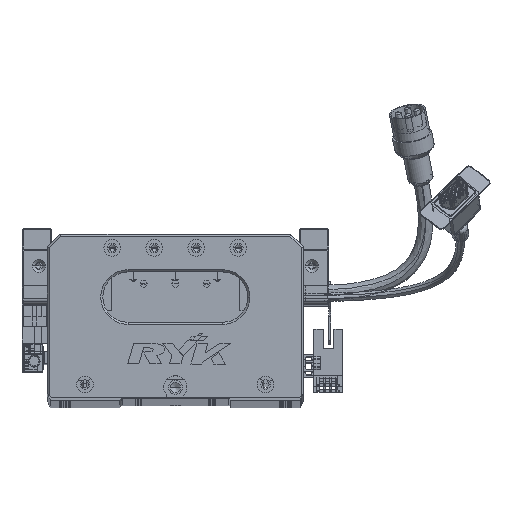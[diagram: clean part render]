
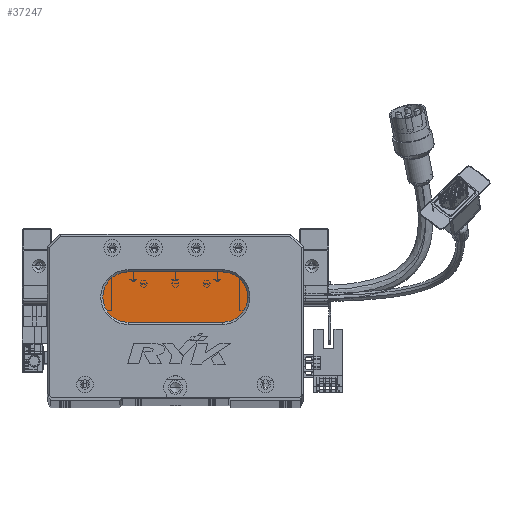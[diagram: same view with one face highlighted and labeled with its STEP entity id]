
A CAD part, top view. The second image highlights one B-rep face of the part: STEP entity #37247.
In plain terms, the highlighted planar face has unit normal (0, 0, 1) as drawn and (0, 0, -1) by its records, which use the part's own axes.
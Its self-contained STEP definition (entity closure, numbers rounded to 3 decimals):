
#1349 = VERTEX_POINT ( 'NONE', #45341 ) ;
#2501 = CARTESIAN_POINT ( 'NONE',  ( 83.5, 36., 13. ) ) ;
#7126 = CIRCLE ( 'NONE', #79330, 12. ) ;
#9318 = VERTEX_POINT ( 'NONE', #86271 ) ;
#11579 = EDGE_CURVE ( 'NONE', #53996, #93677, #7126, .T. ) ;
#16298 = LINE ( 'NONE', #2501, #43527 ) ;
#18006 = AXIS2_PLACEMENT_3D ( 'NONE', #30186, #82677, #83419 ) ;
#19084 = EDGE_CURVE ( 'NONE', #93677, #81019, #97982, .T. ) ;
#21597 = DIRECTION ( 'NONE',  ( 0., 0., -1. ) ) ;
#22746 = CARTESIAN_POINT ( 'NONE',  ( 38.5, 36., 13. ) ) ;
#26226 = DIRECTION ( 'NONE',  ( 0., 0., -1. ) ) ;
#30186 = CARTESIAN_POINT ( 'NONE',  ( 83.5, 48., 13. ) ) ;
#31749 = VECTOR ( 'NONE', #72324, 1000. ) ;
#35780 = ORIENTED_EDGE ( 'NONE', *, *, #42931, .T. ) ;
#37247 = ADVANCED_FACE ( 'NONE', ( #99446 ), #57127, .T. ) ;
#37480 = CARTESIAN_POINT ( 'NONE',  ( 38.5, 60., 13. ) ) ;
#41131 = AXIS2_PLACEMENT_3D ( 'NONE', #55436, #21597, #82500 ) ;
#42931 = EDGE_CURVE ( 'NONE', #9318, #53996, #16298, .T. ) ;
#43527 = VECTOR ( 'NONE', #80951, 1000. ) ;
#45341 = CARTESIAN_POINT ( 'NONE',  ( 83.5, 60., 13. ) ) ;
#46093 = CARTESIAN_POINT ( 'NONE',  ( 83.5, 60., 13. ) ) ;
#48090 = ORIENTED_EDGE ( 'NONE', *, *, #19084, .T. ) ;
#49022 = ORIENTED_EDGE ( 'NONE', *, *, #76804, .T. ) ;
#53996 = VERTEX_POINT ( 'NONE', #22746 ) ;
#55375 = DIRECTION ( 'NONE',  ( -1., 0., 0. ) ) ;
#55436 = CARTESIAN_POINT ( 'NONE',  ( 38.5, 48., 13. ) ) ;
#57127 = PLANE ( 'NONE',  #18006 ) ;
#59735 = AXIS2_PLACEMENT_3D ( 'NONE', #94391, #26226, #86748 ) ;
#60290 = LINE ( 'NONE', #46093, #31749 ) ;
#71538 = EDGE_CURVE ( 'NONE', #81019, #1349, #60290, .T. ) ;
#72324 = DIRECTION ( 'NONE',  ( 1., 0., 0. ) ) ;
#76804 = EDGE_CURVE ( 'NONE', #1349, #9318, #106695, .T. ) ;
#79330 = AXIS2_PLACEMENT_3D ( 'NONE', #82059, #98840, #55375 ) ;
#80951 = DIRECTION ( 'NONE',  ( -1., 0., 0. ) ) ;
#81019 = VERTEX_POINT ( 'NONE', #37480 ) ;
#82059 = CARTESIAN_POINT ( 'NONE',  ( 38.5, 48., 13. ) ) ;
#82500 = DIRECTION ( 'NONE',  ( -1., 0., 0. ) ) ;
#82677 = DIRECTION ( 'NONE',  ( 0., 0., -1. ) ) ;
#83419 = DIRECTION ( 'NONE',  ( -1., 0., 0. ) ) ;
#86271 = CARTESIAN_POINT ( 'NONE',  ( 83.5, 36., 13. ) ) ;
#86605 = ORIENTED_EDGE ( 'NONE', *, *, #11579, .T. ) ;
#86748 = DIRECTION ( 'NONE',  ( -1., 0., 0. ) ) ;
#87330 = ORIENTED_EDGE ( 'NONE', *, *, #71538, .T. ) ;
#93677 = VERTEX_POINT ( 'NONE', #95341 ) ;
#94391 = CARTESIAN_POINT ( 'NONE',  ( 83.5, 48., 13. ) ) ;
#94584 = EDGE_LOOP ( 'NONE', ( #49022, #35780, #86605, #48090, #87330 ) ) ;
#95341 = CARTESIAN_POINT ( 'NONE',  ( 26.5, 48., 13. ) ) ;
#97982 = CIRCLE ( 'NONE', #41131, 12. ) ;
#98840 = DIRECTION ( 'NONE',  ( 0., 0., -1. ) ) ;
#99446 = FACE_OUTER_BOUND ( 'NONE', #94584, .T. ) ;
#106695 = CIRCLE ( 'NONE', #59735, 12. ) ;
